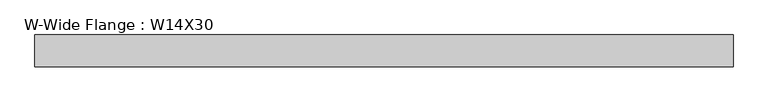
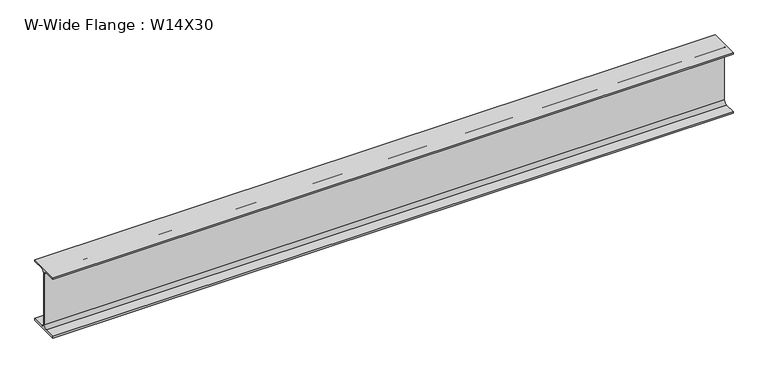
"""IFC4 building model written with IfcOpenShell, lengths in millimetres: beam geometry, W-Wide Flange : W14X30."""

import ifcopenshell
import ifcopenshell.guid

model = None  # the IFC model being written
_history = None  # IfcOwnerHistory: only IFC2X3 demands one
_inside = {}  # id of a spatial element -> (the spatial element, [elements in it])
_under = {}  # id of a project, library or spatial element -> (it, [spatial elements below it])
_declared = {}  # id of a project -> (the project, [libraries it declares])
_typed = {}  # id of a type object -> (the type object, [elements of that type])
_made_of = {}  # id of a material, layer set ... -> (it, [elements and type objects made of it])


def new_model(schema):
    """Start an empty IFC model of exactly this schema.

    Asked for "IFC4X3", IfcOpenShell would pick the latest addendum, in which some entities
    have other attributes; the version numbers below select the first issue.
    IFC2X3 requires an IfcOwnerHistory on every rooted entity: one is made here for all.
    """
    global model, _history
    if schema == "IFC4X3":
        model = ifcopenshell.file(schema_version=(4, 3, 0, 0))
    else:
        model = ifcopenshell.file(schema=schema)
    _inside.clear()
    _under.clear()
    _declared.clear()
    _typed.clear()
    _made_of.clear()
    _history = None
    if model.schema == "IFC2X3":
        org = make("IfcOrganization", Name="unknown")
        user = make(
            "IfcPersonAndOrganization",
            ThePerson=make("IfcPerson", FamilyName="unknown"),
            TheOrganization=org,
        )
        app = make(
            "IfcApplication",
            ApplicationDeveloper=org,
            Version="unknown",
            ApplicationFullName="unknown",
            ApplicationIdentifier="unknown",
        )
        _history = make(
            "IfcOwnerHistory",
            OwningUser=user,
            OwningApplication=app,
            ChangeAction="ADDED",
            CreationDate=0,
        )
    return model


def make(cls, **values):
    """One entity of the class cls with the attributes given. An attribute that is None is left unset."""
    return model.create_entity(
        cls, **{name: value for name, value in values.items() if value is not None}
    )


def rooted(cls, **values):
    """An entity with a GlobalId (a new one), such as an element, a storey or a relation."""
    return make(cls, GlobalId=ifcopenshell.guid.new(), OwnerHistory=_history, **values)


def si_unit(unit_type, name, prefix=None):
    """IfcSIUnit, for example si_unit("LENGTHUNIT", "METRE", prefix="MILLI")."""
    return make("IfcSIUnit", UnitType=unit_type, Prefix=prefix, Name=name)


def assignment(units):
    """IfcUnitAssignment: the units of a project."""
    return None if units is None else make("IfcUnitAssignment", Units=units)


def point(xyz):
    """IfcCartesianPoint."""
    return None if xyz is None else make("IfcCartesianPoint", Coordinates=xyz)


def direction(xyz):
    """IfcDirection."""
    return None if xyz is None else make("IfcDirection", DirectionRatios=xyz)


def frame(location, z_axis=None, x_axis=None):
    """IfcAxis2Placement3D, a coordinate frame: its origin and axes. An axis left out is left unset."""
    return make(
        "IfcAxis2Placement3D",
        Location=point(location),
        Axis=direction(z_axis),
        RefDirection=direction(x_axis),
    )


def frame_2d(location, x_axis=None):
    """IfcAxis2Placement2D, a coordinate frame in the plane: its origin and x axis."""
    return make(
        "IfcAxis2Placement2D", Location=point(location), RefDirection=direction(x_axis)
    )


def origin():
    """The frame at (0, 0, 0) with its axes left unset."""
    return frame((0.0, 0.0, 0.0))


def place(relative_to, where):
    """IfcLocalPlacement: puts the frame where relative to a parent placement (None: the world)."""
    return make(
        "IfcLocalPlacement", PlacementRelTo=relative_to, RelativePlacement=where
    )


def context(
    kind, dimensions, precision=None, world=None, true_north=None, identifier=None
):
    """IfcGeometricRepresentationContext, for example the 3D "Model" context."""
    return make(
        "IfcGeometricRepresentationContext",
        ContextIdentifier=identifier,
        ContextType=kind,
        CoordinateSpaceDimension=dimensions,
        Precision=precision,
        WorldCoordinateSystem=world,
        TrueNorth=true_north,
    )


def project(units=None, contexts=None):
    """IfcProject with its units and contexts."""
    return rooted(
        "IfcProject",
        Name="project",
        RepresentationContexts=contexts,
        UnitsInContext=assignment(units),
    )


def spatial(cls, under=None, at=None, **own):
    """A site, building, storey or space (cls), placed at a placement, below another one or the project."""
    s = rooted(cls, ObjectPlacement=at, **own)
    if under is not None:
        _under.setdefault(under.id(), (under, []))[1].append(s)
    return s


def polyline(points):
    """IfcPolyline through the points."""
    return make("IfcPolyline", Points=[point(p) for p in points])


def circle_curve(where, radius):
    """IfcCircle in the frame where."""
    return make("IfcCircle", Position=where, Radius=radius)


def trimmed(basis, trim1, trim2, sense, master):
    """IfcTrimmedCurve: the piece of a basis curve between two trims."""
    return make(
        "IfcTrimmedCurve",
        BasisCurve=basis,
        Trim1=trim1,
        Trim2=trim2,
        SenseAgreement=sense,
        MasterRepresentation=master,
    )


def segment(curve, same_sense, transition):
    """IfcCompositeCurveSegment."""
    return make(
        "IfcCompositeCurveSegment",
        Transition=transition,
        SameSense=same_sense,
        ParentCurve=curve,
    )


def composite_curve(segments, self_intersect=None):
    """IfcCompositeCurve: segments joined end to end."""
    return make("IfcCompositeCurve", Segments=segments, SelfIntersect=self_intersect)


def outline(outer, holes=None, kind="AREA"):
    """IfcArbitraryClosedProfileDef: a profile drawn as a closed curve; with holes, ...WithVoids."""
    if holes is None:
        return make("IfcArbitraryClosedProfileDef", ProfileType=kind, OuterCurve=outer)
    return make(
        "IfcArbitraryProfileDefWithVoids",
        ProfileType=kind,
        OuterCurve=outer,
        InnerCurves=holes,
    )


def extrude(swept, where, along, depth):
    """IfcExtrudedAreaSolid: the profile swept, set in the frame where, extruded along a direction by depth."""
    return make(
        "IfcExtrudedAreaSolid",
        SweptArea=swept,
        Position=where,
        ExtrudedDirection=direction(along),
        Depth=depth,
    )


def shape(context_of_items, identifier, shape_type, items):
    """IfcShapeRepresentation: the items that make up one representation, for example the "Body"."""
    return make(
        "IfcShapeRepresentation",
        ContextOfItems=context_of_items,
        RepresentationIdentifier=identifier,
        RepresentationType=shape_type,
        Items=items,
    )


def source(mapping_origin, context_of_items, identifier, shape_type, items):
    """IfcRepresentationMap: a shape defined once, which mapped items show again and again."""
    return make(
        "IfcRepresentationMap",
        MappingOrigin=mapping_origin,
        MappedRepresentation=shape(context_of_items, identifier, shape_type, items),
    )


def transform(
    local_origin,
    x_axis=None,
    y_axis=None,
    z_axis=None,
    scale=None,
    scale2=None,
    scale3=None,
    uniform=True,
):
    """IfcCartesianTransformationOperator3D, or its non-uniform kind. x_axis, y_axis, z_axis: its Axis1, 2, 3."""
    if uniform:
        return make(
            "IfcCartesianTransformationOperator3D",
            Axis1=direction(x_axis),
            Axis2=direction(y_axis),
            LocalOrigin=point(local_origin),
            Scale=scale,
            Axis3=direction(z_axis),
        )
    return make(
        "IfcCartesianTransformationOperator3DnonUniform",
        Axis1=direction(x_axis),
        Axis2=direction(y_axis),
        LocalOrigin=point(local_origin),
        Scale=scale,
        Axis3=direction(z_axis),
        Scale2=scale2,
        Scale3=scale3,
    )


def mapped(mapping_source, mapping_target):
    """IfcMappedItem: shows the shape of a source again, moved by a transform."""
    return make(
        "IfcMappedItem", MappingSource=mapping_source, MappingTarget=mapping_target
    )


def made_of(thing, what):
    """Note that an element or type object is made of a material, layer set ...; save() writes the relation."""
    if what is not None:
        _made_of.setdefault(what.id(), (what, []))[1].append(thing)
    return thing


def element(
    cls,
    number,
    at=None,
    inside=None,
    cuts=None,
    type_object=None,
    material=None,
    context=None,
    identifier="Body",
    shape_type=None,
    held_by="IfcProductDefinitionShape",
    body=None,
    shapes=None,
    **own,
):
    """One element of the class cls, such as IfcWall. Its Tag is "e" and its number.

    at: its placement. inside: the storey or other place that contains it. cuts: it is an
    opening in that element (IfcRelVoidsElement). A single representation is given by context,
    identifier, shape_type and body (its items); several are given by shapes. held_by: the class
    of the entity that holds the representations. save() writes the other relations.
    """
    e = rooted(cls, Tag="e%d" % number, ObjectPlacement=at, **own)
    if body is not None:
        shapes = [shape(context, identifier, shape_type, body)]
    if shapes is not None:
        e.Representation = make(held_by, Representations=shapes)
    if inside is not None:
        _inside.setdefault(inside.id(), (inside, []))[1].append(e)
    if cuts is not None:
        rooted(
            "IfcRelVoidsElement", RelatingBuildingElement=cuts, RelatedOpeningElement=e
        )
    if type_object is not None:
        _typed.setdefault(type_object.id(), (type_object, []))[1].append(e)
    return made_of(e, material)


def aggregate(whole, parts):
    """IfcRelAggregates: a whole, such as a stair, and the parts it consists of."""
    return rooted("IfcRelAggregates", RelatingObject=whole, RelatedObjects=parts)


def save(model, path):
    """Write the relations noted so far, then the file.

    IfcRelAggregates (storeys below a building ...), IfcRelContainedInSpatialStructure (elements
    in a storey), IfcRelDefinesByType, IfcRelAssociatesMaterial and IfcRelDeclares: one each for
    every whole, place, type object, material and project.
    """
    for whole, parts in _under.values():
        aggregate(whole, parts)
    for where, things in _inside.values():
        rooted(
            "IfcRelContainedInSpatialStructure",
            RelatedElements=things,
            RelatingStructure=where,
        )
    for kind, things in _typed.values():
        rooted("IfcRelDefinesByType", RelatedObjects=things, RelatingType=kind)
    for what, things in _made_of.values():
        rooted("IfcRelAssociatesMaterial", RelatedObjects=things, RelatingMaterial=what)
    for by, libraries in _declared.values():
        rooted("IfcRelDeclares", RelatingContext=by, RelatedDefinitions=libraries)
    model.write(path)


def w_wide_flange_w14x30_b7f05329(model_context):
    return source(origin(), model_context, "Body", "SweptSolid", [
        extrude(outline(composite_curve([segment(polyline([(85.471, -165.481), (85.471, -175.26), (-85.471, -175.26), (-85.471, -165.481), (-22.225, -165.481)]), True, "CONTINUOUS"), segment(trimmed(circle_curve(frame_2d((-22.225, -146.685)), 18.796), [point((-22.225, -165.481))], [point((-3.429, -146.685))], True, "CARTESIAN"), True, "CONTINUOUS"), segment(polyline([(-3.429, -146.685), (-3.429, 146.685)]), True, "CONTINUOUS"), segment(trimmed(circle_curve(frame_2d((-22.225, 146.685)), 18.796), [point((-3.429, 146.685))], [point((-22.225, 165.481))], True, "CARTESIAN"), True, "CONTINUOUS"), segment(polyline([(-22.225, 165.481), (-85.471, 165.481), (-85.471, 175.26), (85.471, 175.26), (85.471, 165.481), (22.225, 165.481)]), True, "CONTINUOUS"), segment(trimmed(circle_curve(frame_2d((22.225, 146.685)), 18.796), [point((22.225, 165.481))], [point((3.429, 146.685))], True, "CARTESIAN"), True, "CONTINUOUS"), segment(polyline([(3.429, 146.685), (3.429, -146.685)]), True, "CONTINUOUS"), segment(trimmed(circle_curve(frame_2d((22.225, -146.685)), 18.796), [point((3.429, -146.685))], [point((22.225, -165.481))], True, "CARTESIAN"), True, "CONTINUOUS"), segment(polyline([(22.225, -165.481), (85.471, -165.481)]), True, "CONTINUOUS")], self_intersect=False)), frame((-1863.3023799, 0.0, 0.0), z_axis=(1.0, 0.0, 0.0), x_axis=(0.0, 1.0, 0.0)), (0.0, 0.0, 1.0), 3726.6047599),
    ])


if __name__ == "__main__":
    model = new_model("IFC4")
    model_context = context("Model", 3, world=origin())
    ifc_project = project(units=[si_unit("LENGTHUNIT", "METRE", prefix="MILLI")], contexts=[model_context])
    site = spatial("IfcSite", under=ifc_project)
    building = spatial("IfcBuilding", under=site)
    placement = place(None, origin())
    w_wide_flange_w14x30_shape = w_wide_flange_w14x30_b7f05329(model_context)
    element("IfcBeam", 1, ObjectType="W-Wide Flange : W14X30", at=placement, inside=building, context=model_context, shape_type="MappedRepresentation", body=[
        mapped(w_wide_flange_w14x30_shape, transform((0.0, 0.0, 0.0), x_axis=(1.0, 0.0, 0.0), y_axis=(0.0, 1.0, 0.0), z_axis=(0.0, 0.0, 1.0))),
    ])
    save(model, "model.ifc")
